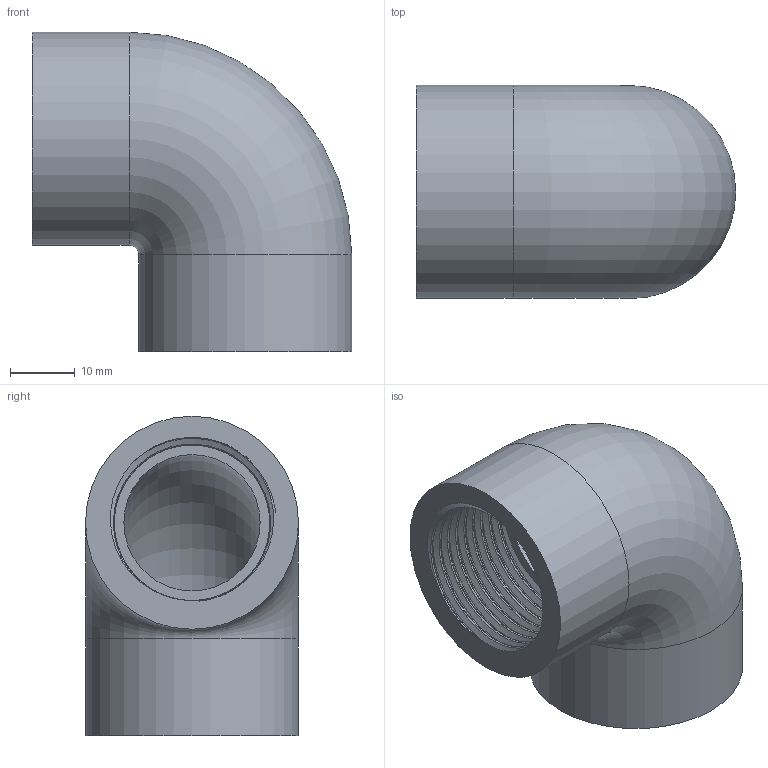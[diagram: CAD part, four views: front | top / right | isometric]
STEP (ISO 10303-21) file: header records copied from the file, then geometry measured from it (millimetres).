
FILE_DESCRIPTION(/* description */ ('PVC gomito a 90° filettato BSP femmina'),/* implementation_level */ '2;1');
FILE_NAME(/* name */ 'C:\Users\POLYPIPE\Desktop\DATASET INVENTOR\LIBRERIA EFFAST\RACCORDI 3DxWEB\RER\3D_RERGOE\3D_RERGOE025C.stp',/* time_stamp */ '2018-01-19T16:17:49+01:00',/* author */ ('POLYPIPE'),/* organization */ ('Polypipe Italia s.r.l.'),/* preprocessor_version */ 'ST-DEVELOPER v16.1',/* originating_system */ 'Autodesk Inventor 2016',/* authorisation */ '');
FILE_SCHEMA (('CONFIG_CONTROL_DESIGN'));
Length unit declared in the file: millimetre
Products named in the file (1): 3D_RERGOE
Bounding box: 49.5 x 33 x 49.5 mm (x, y, z)
Volume: 24297.6 mm3; surface area: 13593.8 mm2
Topology: 1 solids, 1 shells, 22 faces, 48 edges, 30 vertices
Faces by surface type: bspline 10, plane 6, cylinder 4, torus 2
Full cylindrical faces by diameter (mm): 33 x2
Entity records: 7826 total; most frequent: CARTESIAN_POINT 7391, ORIENTED_EDGE 92, DIRECTION 60, EDGE_CURVE 44, EDGE_LOOP 30, VERTEX_POINT 30, AXIS2_PLACEMENT_3D 27, B_SPLINE_CURVE_WITH_KNOTS 24
